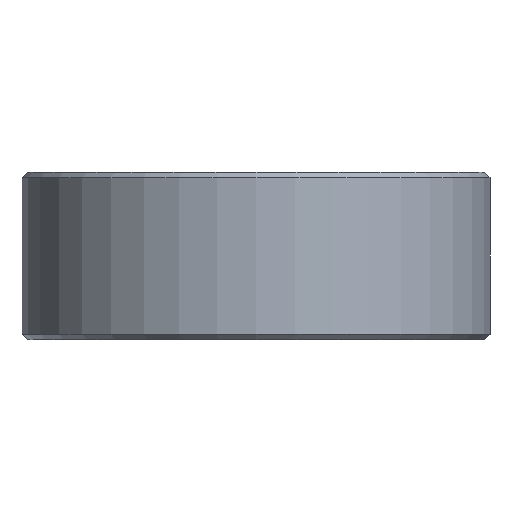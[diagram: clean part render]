
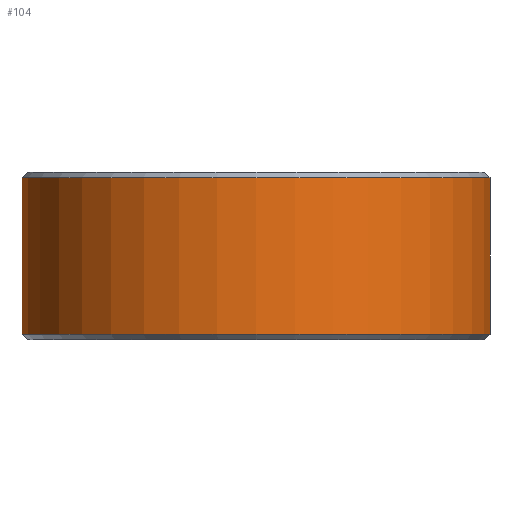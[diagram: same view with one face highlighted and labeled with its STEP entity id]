
A CAD part, front view. The second image highlights one B-rep face of the part: STEP entity #104.
In plain terms, the highlighted cylindrical face has radius 21 mm (diameter 42 mm), a partial arc.
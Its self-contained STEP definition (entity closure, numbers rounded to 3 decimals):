
#104 = ADVANCED_FACE( '', ( #203 ), #204, .T. );
#203 = FACE_OUTER_BOUND( '', #335, .T. );
#204 = CYLINDRICAL_SURFACE( '', #336, 21. );
#335 = EDGE_LOOP( '', ( #601, #602, #603, #604 ) );
#336 = AXIS2_PLACEMENT_3D( '', #605, #606, #607 );
#601 = ORIENTED_EDGE( '', *, *, #834, .T. );
#602 = ORIENTED_EDGE( '', *, *, #765, .T. );
#603 = ORIENTED_EDGE( '', *, *, #835, .F. );
#604 = ORIENTED_EDGE( '', *, *, #826, .T. );
#605 = CARTESIAN_POINT( '', ( 0., 0., 7.5 ) );
#606 = DIRECTION( '', ( 0., 0., -1. ) );
#607 = DIRECTION( '', ( 1., 0., 0. ) );
#765 = EDGE_CURVE( '', #877, #875, #878, .T. );
#826 = EDGE_CURVE( '', #986, #984, #987, .F. );
#834 = EDGE_CURVE( '', #984, #877, #999, .T. );
#835 = EDGE_CURVE( '', #986, #875, #1000, .T. );
#875 = VERTEX_POINT( '', #1064 );
#877 = VERTEX_POINT( '', #1069 );
#878 = LINE( '', #1070, #1071 );
#984 = VERTEX_POINT( '', #1384 );
#986 = VERTEX_POINT( '', #1389 );
#987 = LINE( '', #1390, #1391 );
#999 = CIRCLE( '', #1417, 21. );
#1000 = CIRCLE( '', #1418, 21. );
#1064 = CARTESIAN_POINT( '', ( 20.946, -1.5, 7. ) );
#1069 = CARTESIAN_POINT( '', ( 20.946, -1.5, -7. ) );
#1070 = CARTESIAN_POINT( '', ( 20.946, -1.5, 7.5 ) );
#1071 = VECTOR( '', #1493, 1000. );
#1384 = CARTESIAN_POINT( '', ( -20.946, -1.5, -7. ) );
#1389 = CARTESIAN_POINT( '', ( -20.946, -1.5, 7. ) );
#1390 = CARTESIAN_POINT( '', ( -20.946, -1.5, 7.5 ) );
#1391 = VECTOR( '', #1586, 1000. );
#1417 = AXIS2_PLACEMENT_3D( '', #1592, #1593, #1594 );
#1418 = AXIS2_PLACEMENT_3D( '', #1595, #1596, #1597 );
#1493 = DIRECTION( '', ( 0., 0., 1. ) );
#1586 = DIRECTION( '', ( 0., 0., 1. ) );
#1592 = CARTESIAN_POINT( '', ( 0., 0., -7. ) );
#1593 = DIRECTION( '', ( 0., 0., 1. ) );
#1594 = DIRECTION( '', ( 1., 0., 0. ) );
#1595 = CARTESIAN_POINT( '', ( 0., 0., 7. ) );
#1596 = DIRECTION( '', ( 0., 0., 1. ) );
#1597 = DIRECTION( '', ( 1., 0., 0. ) );
